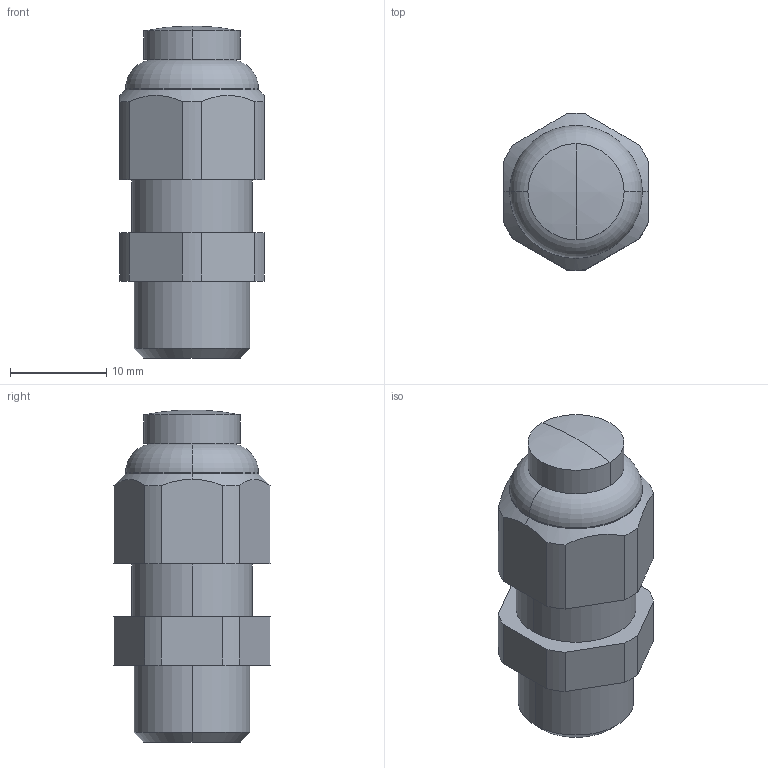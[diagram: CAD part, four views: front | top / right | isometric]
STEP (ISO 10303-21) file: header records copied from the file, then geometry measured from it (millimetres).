
FILE_DESCRIPTION (( 'STEP AP203' ), '1' );
FILE_NAME ('50.612 PA-V.STEP', '2005-10-17T07:11:54', ( ' ' ), ( '' ), 'SwSTEP 2.0', 'SolidWorks 2005143', '' );
FILE_SCHEMA (( 'CONFIG_CONTROL_DESIGN' ));
Length unit declared in the file: millimetre
Products named in the file (1): 50.612 PA-V
Bounding box: 15 x 16.29 x 34.5 mm (x, y, z)
Volume: 4087.3 mm3; surface area: 2410.5 mm2
Topology: 1 solids, 1 shells, 87 faces, 222 edges, 145 vertices
Faces by surface type: plane 55, cylinder 22, torus 4, cone 4, sphere 2
Entity records: 2749 total; most frequent: CARTESIAN_POINT 523, DIRECTION 446, ORIENTED_EDGE 444, EDGE_CURVE 222, VECTOR 158, LINE 158, VERTEX_POINT 145, AXIS2_PLACEMENT_3D 144
